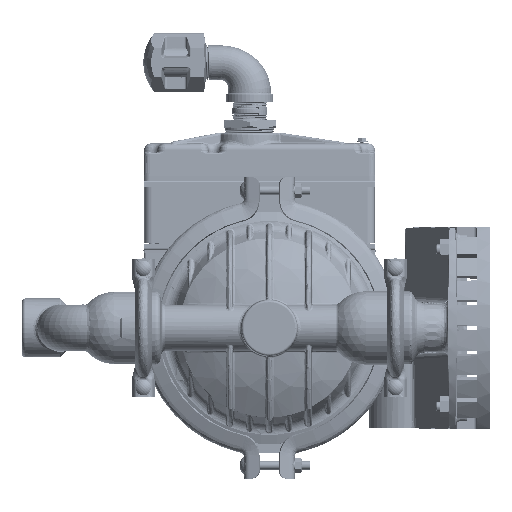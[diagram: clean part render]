
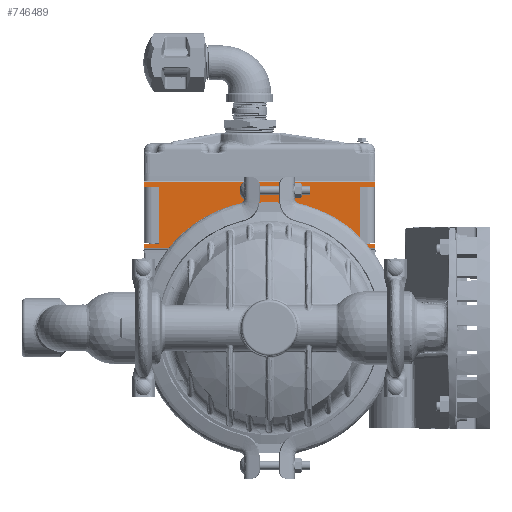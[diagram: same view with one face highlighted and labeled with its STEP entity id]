
A CAD part, left-side view. The second image highlights one B-rep face of the part: STEP entity #746489.
In plain terms, the highlighted planar face has unit normal (-1, 0, 0).
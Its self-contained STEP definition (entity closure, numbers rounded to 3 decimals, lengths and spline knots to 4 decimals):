
#3907 = LINE ( 'NONE', #199429, #598020 ) ;
#13370 = LINE ( 'NONE', #267276, #334183 ) ;
#30006 = CARTESIAN_POINT ( 'NONE',  ( -1.315, -4.05, 5.557 ) ) ;
#34388 = AXIS2_PLACEMENT_3D ( 'NONE', #398777, #727435, #402872 ) ;
#34561 = CARTESIAN_POINT ( 'NONE',  ( -1.315, 4.8, 5.3845 ) ) ;
#38407 = VERTEX_POINT ( 'NONE', #508504 ) ;
#46854 = LINE ( 'NONE', #34561, #362092 ) ;
#48875 = EDGE_CURVE ( 'NONE', #250215, #706523, #505138, .T. ) ;
#50244 = EDGE_CURVE ( 'NONE', #407687, #798429, #46854, .T. ) ;
#53414 = DIRECTION ( 'NONE',  ( 0., 0., 1. ) ) ;
#69990 = LINE ( 'NONE', #452890, #608424 ) ;
#84981 = ORIENTED_EDGE ( 'NONE', *, *, #536907, .T. ) ;
#94542 = VECTOR ( 'NONE', #814342, 39.3701 ) ;
#94560 = CARTESIAN_POINT ( 'NONE',  ( -1.315, 4.225, 3.2195 ) ) ;
#114896 = ORIENTED_EDGE ( 'NONE', *, *, #48875, .F. ) ;
#129758 = EDGE_CURVE ( 'NONE', #699152, #330893, #385190, .T. ) ;
#132425 = CARTESIAN_POINT ( 'NONE',  ( -1.315, 4.8, 5.3845 ) ) ;
#176439 = ORIENTED_EDGE ( 'NONE', *, *, #129758, .F. ) ;
#177358 = VECTOR ( 'NONE', #809179, 39.3701 ) ;
#185008 = ORIENTED_EDGE ( 'NONE', *, *, #192629, .T. ) ;
#192629 = EDGE_CURVE ( 'NONE', #250215, #305816, #775434, .T. ) ;
#199429 = CARTESIAN_POINT ( 'NONE',  ( -1.315, 4.8, 5.557 ) ) ;
#204814 = DIRECTION ( 'NONE',  ( 0., 1., 0. ) ) ;
#206551 = CARTESIAN_POINT ( 'NONE',  ( -1.315, -4.05, 5.3845 ) ) ;
#211332 = EDGE_CURVE ( 'NONE', #449299, #656762, #333440, .T. ) ;
#222536 = EDGE_CURVE ( 'NONE', #706523, #38407, #338062, .T. ) ;
#225963 = DIRECTION ( 'NONE',  ( 0., 0., 1. ) ) ;
#250215 = VERTEX_POINT ( 'NONE', #206551 ) ;
#253219 = DIRECTION ( 'NONE',  ( 0., -1., 0. ) ) ;
#257287 = EDGE_CURVE ( 'NONE', #330893, #449299, #310701, .T. ) ;
#267276 = CARTESIAN_POINT ( 'NONE',  ( -1.315, -4.05, 3.2195 ) ) ;
#268541 = DIRECTION ( 'NONE',  ( 0., 0., 1. ) ) ;
#268574 = CARTESIAN_POINT ( 'NONE',  ( -1.315, -4.05, 3.2195 ) ) ;
#279955 = DIRECTION ( 'NONE',  ( 0., 0., 1. ) ) ;
#291640 = ORIENTED_EDGE ( 'NONE', *, *, #211332, .F. ) ;
#303210 = LINE ( 'NONE', #377968, #495685 ) ;
#305816 = VERTEX_POINT ( 'NONE', #30006 ) ;
#310701 = LINE ( 'NONE', #760059, #94542 ) ;
#321459 = VECTOR ( 'NONE', #253219, 39.3701 ) ;
#326990 = CARTESIAN_POINT ( 'NONE',  ( -1.315, -4.05, 3.047 ) ) ;
#330893 = VERTEX_POINT ( 'NONE', #372517 ) ;
#333440 = LINE ( 'NONE', #587320, #699090 ) ;
#334183 = VECTOR ( 'NONE', #204814, 39.3701 ) ;
#338062 = LINE ( 'NONE', #591953, #422719 ) ;
#362092 = VECTOR ( 'NONE', #225963, 39.3701 ) ;
#372517 = CARTESIAN_POINT ( 'NONE',  ( -1.315, 4.8, 3.2195 ) ) ;
#377968 = CARTESIAN_POINT ( 'NONE',  ( -1.315, -4.05, 3.047 ) ) ;
#385190 = LINE ( 'NONE', #639045, #604280 ) ;
#398777 = CARTESIAN_POINT ( 'NONE',  ( -1.315, 4.81, 2.987 ) ) ;
#402872 = DIRECTION ( 'NONE',  ( 0., 0., 1. ) ) ;
#407687 = VERTEX_POINT ( 'NONE', #572717 ) ;
#417590 = ORIENTED_EDGE ( 'NONE', *, *, #50244, .F. ) ;
#419738 = EDGE_CURVE ( 'NONE', #798429, #305816, #3907, .T. ) ;
#422719 = VECTOR ( 'NONE', #454716, 39.3701 ) ;
#423998 = EDGE_CURVE ( 'NONE', #648911, #38407, #13370, .T. ) ;
#449299 = VERTEX_POINT ( 'NONE', #94560 ) ;
#452890 = CARTESIAN_POINT ( 'NONE',  ( -1.315, -4.05, 3.047 ) ) ;
#454236 = VERTEX_POINT ( 'NONE', #326990 ) ;
#454716 = DIRECTION ( 'NONE',  ( 0., 0., -1. ) ) ;
#455495 = VECTOR ( 'NONE', #279955, 39.3701 ) ;
#495685 = VECTOR ( 'NONE', #53414, 39.3701 ) ;
#505138 = LINE ( 'NONE', #555322, #177358 ) ;
#508504 = CARTESIAN_POINT ( 'NONE',  ( -1.315, -3.475, 3.2195 ) ) ;
#536907 = EDGE_CURVE ( 'NONE', #407687, #656762, #765084, .T. ) ;
#552242 = CARTESIAN_POINT ( 'NONE',  ( -1.315, 4.8, 3.047 ) ) ;
#555322 = CARTESIAN_POINT ( 'NONE',  ( -1.315, -4.05, 5.3845 ) ) ;
#568290 = CARTESIAN_POINT ( 'NONE',  ( -1.315, 4.225, 5.3845 ) ) ;
#572717 = CARTESIAN_POINT ( 'NONE',  ( -1.315, 4.8, 5.3845 ) ) ;
#574916 = ORIENTED_EDGE ( 'NONE', *, *, #257287, .F. ) ;
#581690 = EDGE_CURVE ( 'NONE', #454236, #648911, #303210, .T. ) ;
#587320 = CARTESIAN_POINT ( 'NONE',  ( -1.315, 4.225, 3.2195 ) ) ;
#591953 = CARTESIAN_POINT ( 'NONE',  ( -1.315, -3.475, 5.3845 ) ) ;
#598020 = VECTOR ( 'NONE', #636525, 39.3701 ) ;
#598436 = PLANE ( 'NONE',  #34388 ) ;
#604280 = VECTOR ( 'NONE', #268541, 39.3701 ) ;
#608424 = VECTOR ( 'NONE', #765093, 39.3701 ) ;
#632141 = CARTESIAN_POINT ( 'NONE',  ( -1.315, 4.8, 5.557 ) ) ;
#636525 = DIRECTION ( 'NONE',  ( 0., -1., 0. ) ) ;
#639045 = CARTESIAN_POINT ( 'NONE',  ( -1.315, 4.8, 3.047 ) ) ;
#648911 = VERTEX_POINT ( 'NONE', #268574 ) ;
#656762 = VERTEX_POINT ( 'NONE', #568290 ) ;
#662923 = EDGE_LOOP ( 'NONE', ( #185008, #729169, #417590, #84981, #291640, #574916, #176439, #727390, #782028, #742034, #732156, #114896 ) ) ;
#664928 = FACE_OUTER_BOUND ( 'NONE', #662923, .T. ) ;
#699090 = VECTOR ( 'NONE', #716299, 39.3701 ) ;
#699152 = VERTEX_POINT ( 'NONE', #552242 ) ;
#706523 = VERTEX_POINT ( 'NONE', #736382 ) ;
#713015 = CARTESIAN_POINT ( 'NONE',  ( -1.315, -4.05, 5.3845 ) ) ;
#716299 = DIRECTION ( 'NONE',  ( 0., 0., 1. ) ) ;
#727390 = ORIENTED_EDGE ( 'NONE', *, *, #736621, .F. ) ;
#727435 = DIRECTION ( 'NONE',  ( -1., 0., 0. ) ) ;
#729169 = ORIENTED_EDGE ( 'NONE', *, *, #419738, .F. ) ;
#732156 = ORIENTED_EDGE ( 'NONE', *, *, #222536, .F. ) ;
#736382 = CARTESIAN_POINT ( 'NONE',  ( -1.315, -3.475, 5.3845 ) ) ;
#736621 = EDGE_CURVE ( 'NONE', #454236, #699152, #69990, .T. ) ;
#742034 = ORIENTED_EDGE ( 'NONE', *, *, #423998, .T. ) ;
#746489 = ADVANCED_FACE ( 'NONE', ( #664928 ), #598436, .T. ) ;
#760059 = CARTESIAN_POINT ( 'NONE',  ( -1.315, 4.8, 3.2195 ) ) ;
#765084 = LINE ( 'NONE', #132425, #321459 ) ;
#765093 = DIRECTION ( 'NONE',  ( 0., 1., 0. ) ) ;
#775434 = LINE ( 'NONE', #713015, #455495 ) ;
#782028 = ORIENTED_EDGE ( 'NONE', *, *, #581690, .T. ) ;
#798429 = VERTEX_POINT ( 'NONE', #632141 ) ;
#809179 = DIRECTION ( 'NONE',  ( 0., 1., 0. ) ) ;
#814342 = DIRECTION ( 'NONE',  ( 0., -1., 0. ) ) ;
